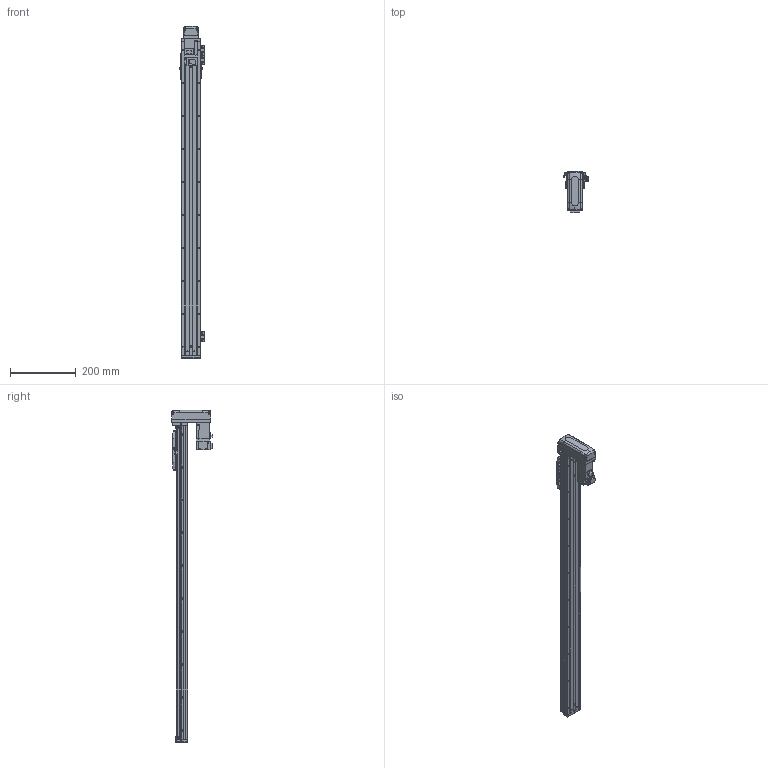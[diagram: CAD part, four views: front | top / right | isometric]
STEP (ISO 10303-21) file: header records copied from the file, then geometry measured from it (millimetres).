
FILE_DESCRIPTION (( 'STEP AP203' ), '1' );
FILE_NAME ('CTHA50-800-BM-M10-C4L.step', '2022-03-19T06:04:57', ( '微软用户' ), ( '微软中国' ), 'SwSTEP 2.0', 'SolidWorks 2020', '' );
FILE_SCHEMA (( 'CONFIG_CONTROL_DESIGN' ));
Length unit declared in the file: millimetre
Products named in the file (20): GBT 70.1-M3℅6; CTHA50-030; KTHA50-001_950; CTHA60-017; CTHA50-031; KTHA50-004; GBT 70.1-M4×12; GBT 70.3-M3℅6; KTHA50-005; CTHA60-016; CTHA50-015-2_CTHA60-015-2; GB¨uT 70.2-M3¡Á6_M3¡Á6; CTHA60-021; CTHA60-033; EE_SX911P_R; HG-KR13（三菱）; GBT 70.1-M3×15; GBT77-2000 M3×3; CTHA50-002; CTHA50-800-BM-M10-C4L
Assembly tree (60 placements, depth 2):
  CTHA50-800-BM-M10-C4L
    KTHA50-001_950
    KTHA50-004
    KTHA50-005
    GB¨uT 70.2-M3¡Á6_M3¡Á6  x10
    EE_SX911P_R  x3
    GBT77-2000 M3×3  x6
    GBT 70.1-M3℅6  x6
    CTHA60-017  x3
    GBT 70.1-M4×12  x10
    CTHA60-016  x2
    CTHA60-021  x2
    HG-KR13（三菱）
    CTHA50-002
    CTHA50-030  x2
    CTHA50-031
    GBT 70.3-M3℅6  x4
    CTHA50-015-2_CTHA60-015-2
    CTHA60-033
    GBT 70.1-M3×15  x4
Bounding box: 74.12 x 125.3 x 1007 mm (x, y, z)
Volume: 1819993 mm3; surface area: 461002 mm2
Topology: 62 solids, 62 shells, 2593 faces, 6191 edges, 3798 vertices
Faces by surface type: plane 1470, cylinder 606, cone 359, torus 108, bspline 26, sphere 24
Entity records: 45269 total; most frequent: CARTESIAN_POINT 8331, DIRECTION 7085, ORIENTED_EDGE 6890, EDGE_CURVE 3445, LINE 2421, VECTOR 2421, AXIS2_PLACEMENT_3D 2332, VERTEX_POINT 2172
